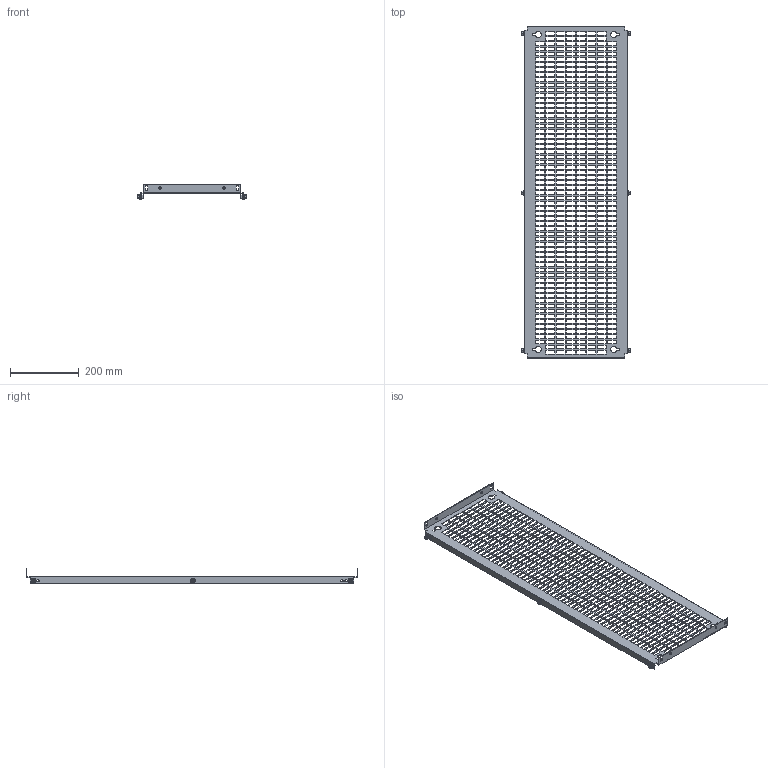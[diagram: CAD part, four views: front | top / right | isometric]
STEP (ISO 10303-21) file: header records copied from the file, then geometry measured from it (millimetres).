
FILE_DESCRIPTION(('Open CASCADE Model'),'2;1');
FILE_NAME('Open CASCADE Shape Model','2025-02-19T16:49:27',('Author'),( 'Open CASCADE'),'Open CASCADE STEP processor 7.8','Open CASCADE 7.8' ,'Unknown');
FILE_SCHEMA(('AUTOMOTIVE_DESIGN { 1 0 10303 214 1 1 1 1 }'));
Length unit declared in the file: millimetre
Products named in the file (4): Compound1; Solid1; Solid2; Solid3
Assembly tree (13 placements, depth 2):
  Compound1
    Solid1
    Solid2  x6
    Solid3  x6
Bounding box: 320 x 969 x 43 mm (x, y, z)
Volume: 392794.3 mm3; surface area: 472007.3 mm2
Topology: 13 solids, 13 shells, 2382 faces, 6890 edges, 4540 vertices
Faces by surface type: plane 2152, cone 102, bspline 72, cylinder 38, torus 18
Full cylindrical faces by diameter (mm): 5 x6, 6 x12, 7 x16
Entity records: 72364 total; most frequent: CARTESIAN_POINT 13267, ORIENTED_EDGE 12650, DIRECTION 10564, EDGE_CURVE 6325, LINE 6160, VECTOR 6160, VERTEX_POINT 4210, FACE_BOUND 3165
